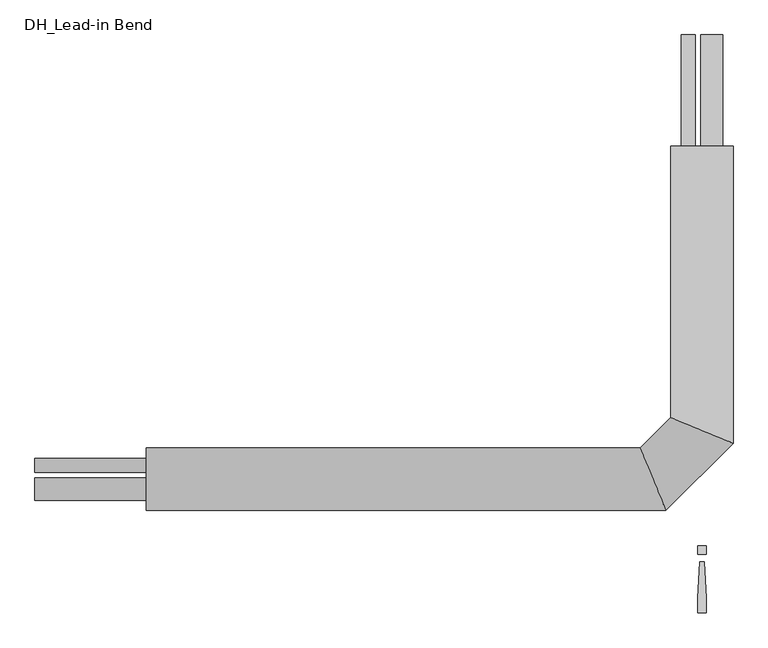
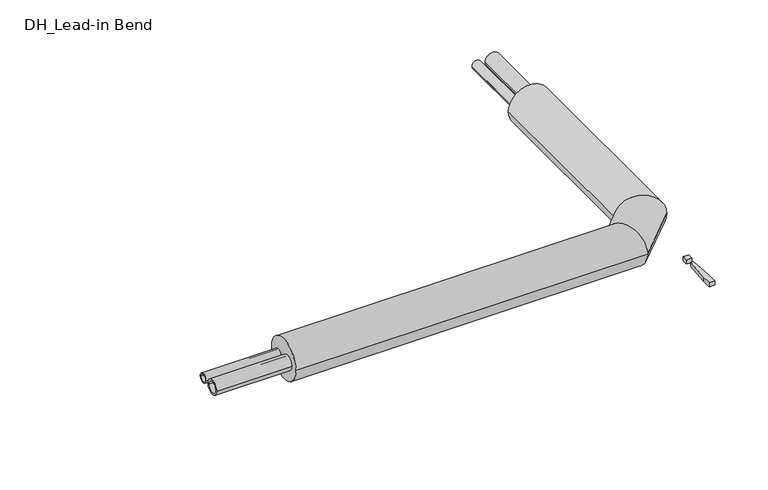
"""IFC4 building model written with IfcOpenShell, lengths in millimetres: pipe fitting geometry, DH_Lead-in Bend : INSULPEX DUO 7.4 DW Vertical."""

import ifcopenshell
import ifcopenshell.guid

model = None  # the IFC model being written
_history = None  # IfcOwnerHistory: only IFC2X3 demands one
_inside = {}  # id of a spatial element -> (the spatial element, [elements in it])
_under = {}  # id of a project, library or spatial element -> (it, [spatial elements below it])
_declared = {}  # id of a project -> (the project, [libraries it declares])
_typed = {}  # id of a type object -> (the type object, [elements of that type])
_made_of = {}  # id of a material, layer set ... -> (it, [elements and type objects made of it])


def new_model(schema):
    """Start an empty IFC model of exactly this schema.

    Asked for "IFC4X3", IfcOpenShell would pick the latest addendum, in which some entities
    have other attributes; the version numbers below select the first issue.
    IFC2X3 requires an IfcOwnerHistory on every rooted entity: one is made here for all.
    """
    global model, _history
    if schema == "IFC4X3":
        model = ifcopenshell.file(schema_version=(4, 3, 0, 0))
    else:
        model = ifcopenshell.file(schema=schema)
    _inside.clear()
    _under.clear()
    _declared.clear()
    _typed.clear()
    _made_of.clear()
    _history = None
    if model.schema == "IFC2X3":
        org = make("IfcOrganization", Name="unknown")
        user = make(
            "IfcPersonAndOrganization",
            ThePerson=make("IfcPerson", FamilyName="unknown"),
            TheOrganization=org,
        )
        app = make(
            "IfcApplication",
            ApplicationDeveloper=org,
            Version="unknown",
            ApplicationFullName="unknown",
            ApplicationIdentifier="unknown",
        )
        _history = make(
            "IfcOwnerHistory",
            OwningUser=user,
            OwningApplication=app,
            ChangeAction="ADDED",
            CreationDate=0,
        )
    return model


def make(cls, **values):
    """One entity of the class cls with the attributes given. An attribute that is None is left unset."""
    return model.create_entity(
        cls, **{name: value for name, value in values.items() if value is not None}
    )


def rooted(cls, **values):
    """An entity with a GlobalId (a new one), such as an element, a storey or a relation."""
    return make(cls, GlobalId=ifcopenshell.guid.new(), OwnerHistory=_history, **values)


def si_unit(unit_type, name, prefix=None):
    """IfcSIUnit, for example si_unit("LENGTHUNIT", "METRE", prefix="MILLI")."""
    return make("IfcSIUnit", UnitType=unit_type, Prefix=prefix, Name=name)


def assignment(units):
    """IfcUnitAssignment: the units of a project."""
    return None if units is None else make("IfcUnitAssignment", Units=units)


def point(xyz):
    """IfcCartesianPoint."""
    return None if xyz is None else make("IfcCartesianPoint", Coordinates=xyz)


def direction(xyz):
    """IfcDirection."""
    return None if xyz is None else make("IfcDirection", DirectionRatios=xyz)


def frame(location, z_axis=None, x_axis=None):
    """IfcAxis2Placement3D, a coordinate frame: its origin and axes. An axis left out is left unset."""
    return make(
        "IfcAxis2Placement3D",
        Location=point(location),
        Axis=direction(z_axis),
        RefDirection=direction(x_axis),
    )


def frame_2d(location, x_axis=None):
    """IfcAxis2Placement2D, a coordinate frame in the plane: its origin and x axis."""
    return make(
        "IfcAxis2Placement2D", Location=point(location), RefDirection=direction(x_axis)
    )


def origin():
    """The frame at (0, 0, 0) with its axes left unset."""
    return frame((0.0, 0.0, 0.0))


def origin_with_axes():
    """The frame at (0, 0, 0) with the z axis (0, 0, 1) and the x axis (1, 0, 0) written out."""
    return frame((0.0, 0.0, 0.0), z_axis=(0.0, 0.0, 1.0), x_axis=(1.0, 0.0, 0.0))


def place(relative_to, where):
    """IfcLocalPlacement: puts the frame where relative to a parent placement (None: the world)."""
    return make(
        "IfcLocalPlacement", PlacementRelTo=relative_to, RelativePlacement=where
    )


def context(
    kind, dimensions, precision=None, world=None, true_north=None, identifier=None
):
    """IfcGeometricRepresentationContext, for example the 3D "Model" context."""
    return make(
        "IfcGeometricRepresentationContext",
        ContextIdentifier=identifier,
        ContextType=kind,
        CoordinateSpaceDimension=dimensions,
        Precision=precision,
        WorldCoordinateSystem=world,
        TrueNorth=true_north,
    )


def project(units=None, contexts=None):
    """IfcProject with its units and contexts."""
    return rooted(
        "IfcProject",
        Name="project",
        RepresentationContexts=contexts,
        UnitsInContext=assignment(units),
    )


def spatial(cls, under=None, at=None, **own):
    """A site, building, storey or space (cls), placed at a placement, below another one or the project."""
    s = rooted(cls, ObjectPlacement=at, **own)
    if under is not None:
        _under.setdefault(under.id(), (under, []))[1].append(s)
    return s


def polyline(points):
    """IfcPolyline through the points."""
    return make("IfcPolyline", Points=[point(p) for p in points])


def circle_curve(where, radius):
    """IfcCircle in the frame where."""
    return make("IfcCircle", Position=where, Radius=radius)


def ellipse_curve(where, semi_axis1, semi_axis2):
    """IfcEllipse in the frame where."""
    return make(
        "IfcEllipse", Position=where, SemiAxis1=semi_axis1, SemiAxis2=semi_axis2
    )


def trimmed(basis, trim1, trim2, sense, master):
    """IfcTrimmedCurve: the piece of a basis curve between two trims."""
    return make(
        "IfcTrimmedCurve",
        BasisCurve=basis,
        Trim1=trim1,
        Trim2=trim2,
        SenseAgreement=sense,
        MasterRepresentation=master,
    )


def segment(curve, same_sense, transition):
    """IfcCompositeCurveSegment."""
    return make(
        "IfcCompositeCurveSegment",
        Transition=transition,
        SameSense=same_sense,
        ParentCurve=curve,
    )


def composite_curve(segments, self_intersect=None):
    """IfcCompositeCurve: segments joined end to end."""
    return make("IfcCompositeCurve", Segments=segments, SelfIntersect=self_intersect)


def outline(outer, holes=None, kind="AREA"):
    """IfcArbitraryClosedProfileDef: a profile drawn as a closed curve; with holes, ...WithVoids."""
    if holes is None:
        return make("IfcArbitraryClosedProfileDef", ProfileType=kind, OuterCurve=outer)
    return make(
        "IfcArbitraryProfileDefWithVoids",
        ProfileType=kind,
        OuterCurve=outer,
        InnerCurves=holes,
    )


def extrude(swept, where, along, depth):
    """IfcExtrudedAreaSolid: the profile swept, set in the frame where, extruded along a direction by depth."""
    return make(
        "IfcExtrudedAreaSolid",
        SweptArea=swept,
        Position=where,
        ExtrudedDirection=direction(along),
        Depth=depth,
    )


def shape(context_of_items, identifier, shape_type, items):
    """IfcShapeRepresentation: the items that make up one representation, for example the "Body"."""
    return make(
        "IfcShapeRepresentation",
        ContextOfItems=context_of_items,
        RepresentationIdentifier=identifier,
        RepresentationType=shape_type,
        Items=items,
    )


def source(mapping_origin, context_of_items, identifier, shape_type, items):
    """IfcRepresentationMap: a shape defined once, which mapped items show again and again."""
    return make(
        "IfcRepresentationMap",
        MappingOrigin=mapping_origin,
        MappedRepresentation=shape(context_of_items, identifier, shape_type, items),
    )


def transform(
    local_origin,
    x_axis=None,
    y_axis=None,
    z_axis=None,
    scale=None,
    scale2=None,
    scale3=None,
    uniform=True,
):
    """IfcCartesianTransformationOperator3D, or its non-uniform kind. x_axis, y_axis, z_axis: its Axis1, 2, 3."""
    if uniform:
        return make(
            "IfcCartesianTransformationOperator3D",
            Axis1=direction(x_axis),
            Axis2=direction(y_axis),
            LocalOrigin=point(local_origin),
            Scale=scale,
            Axis3=direction(z_axis),
        )
    return make(
        "IfcCartesianTransformationOperator3DnonUniform",
        Axis1=direction(x_axis),
        Axis2=direction(y_axis),
        LocalOrigin=point(local_origin),
        Scale=scale,
        Axis3=direction(z_axis),
        Scale2=scale2,
        Scale3=scale3,
    )


def mapped(mapping_source, mapping_target):
    """IfcMappedItem: shows the shape of a source again, moved by a transform."""
    return make(
        "IfcMappedItem", MappingSource=mapping_source, MappingTarget=mapping_target
    )


def made_of(thing, what):
    """Note that an element or type object is made of a material, layer set ...; save() writes the relation."""
    if what is not None:
        _made_of.setdefault(what.id(), (what, []))[1].append(thing)
    return thing


def element(
    cls,
    number,
    at=None,
    inside=None,
    cuts=None,
    type_object=None,
    material=None,
    context=None,
    identifier="Body",
    shape_type=None,
    held_by="IfcProductDefinitionShape",
    body=None,
    shapes=None,
    **own,
):
    """One element of the class cls, such as IfcWall. Its Tag is "e" and its number.

    at: its placement. inside: the storey or other place that contains it. cuts: it is an
    opening in that element (IfcRelVoidsElement). A single representation is given by context,
    identifier, shape_type and body (its items); several are given by shapes. held_by: the class
    of the entity that holds the representations. save() writes the other relations.
    """
    e = rooted(cls, Tag="e%d" % number, ObjectPlacement=at, **own)
    if body is not None:
        shapes = [shape(context, identifier, shape_type, body)]
    if shapes is not None:
        e.Representation = make(held_by, Representations=shapes)
    if inside is not None:
        _inside.setdefault(inside.id(), (inside, []))[1].append(e)
    if cuts is not None:
        rooted(
            "IfcRelVoidsElement", RelatingBuildingElement=cuts, RelatedOpeningElement=e
        )
    if type_object is not None:
        _typed.setdefault(type_object.id(), (type_object, []))[1].append(e)
    return made_of(e, material)


def aggregate(whole, parts):
    """IfcRelAggregates: a whole, such as a stair, and the parts it consists of."""
    return rooted("IfcRelAggregates", RelatingObject=whole, RelatedObjects=parts)


def save(model, path):
    """Write the relations noted so far, then the file.

    IfcRelAggregates (storeys below a building ...), IfcRelContainedInSpatialStructure (elements
    in a storey), IfcRelDefinesByType, IfcRelAssociatesMaterial and IfcRelDeclares: one each for
    every whole, place, type object, material and project.
    """
    for whole, parts in _under.values():
        aggregate(whole, parts)
    for where, things in _inside.values():
        rooted(
            "IfcRelContainedInSpatialStructure",
            RelatedElements=things,
            RelatingStructure=where,
        )
    for kind, things in _typed.values():
        rooted("IfcRelDefinesByType", RelatedObjects=things, RelatingType=kind)
    for what, things in _made_of.values():
        rooted("IfcRelAssociatesMaterial", RelatedObjects=things, RelatingMaterial=what)
    for by, libraries in _declared.values():
        rooted("IfcRelDeclares", RelatingContext=by, RelatedDefinitions=libraries)
    model.write(path)


def plane_surface(at):
    """IfcPlane: the flat surface through the origin of the frame at, square to its z axis."""
    return make("IfcPlane", Position=at)


def cylinder_surface(at, radius):
    """IfcCylindricalSurface: all points at the distance radius from the z axis of the frame at."""
    return make("IfcCylindricalSurface", Position=at, Radius=radius)


def advanced_brep(points, edges, surfaces, faces):
    """IfcAdvancedBrep: a solid bounded by faces that lie on surfaces and meet in shared edges.

    An edge is (start, end): straight between two places in points (the first is 0);
    or (start, end, curve); or (start, end, curve, False) where it runs against its curve.
    A face is (place in surfaces, loops), or (place, loops, False) where it looks against
    its surface's normal. A loop lists edges by number (the first is 1), with a minus sign
    where the edge is run from its end to its start. The first loop is the outer one.
    """
    corners = [point(p) for p in points]
    vertices = [make("IfcVertexPoint", VertexGeometry=c) for c in corners]
    made = []
    for start, end, *more in edges:
        made.append(
            make(
                "IfcEdgeCurve",
                EdgeStart=vertices[start],
                EdgeEnd=vertices[end],
                EdgeGeometry=more[0] if more else make("IfcPolyline", Points=[corners[start], corners[end]]),
                SameSense=more[1] if len(more) > 1 else True,
            )
        )
    hull = []
    for where, loops, *sense in faces:
        bounds = []
        for j, loop in enumerate(loops):
            ring = [make("IfcOrientedEdge", EdgeElement=made[abs(k) - 1], Orientation=k > 0) for k in loop]
            bounds.append(
                make(
                    "IfcFaceOuterBound" if j == 0 else "IfcFaceBound",
                    Bound=make("IfcEdgeLoop", EdgeList=ring),
                    Orientation=True,
                )
            )
        hull.append(make("IfcAdvancedFace", Bounds=bounds, FaceSurface=surfaces[where], SameSense=sense[0] if sense else True))
    return make("IfcAdvancedBrep", Outer=make("IfcClosedShell", CfsFaces=hull))


def dh_lead_in_bend_f61e59fa(model_context):
    return source(origin(), model_context, "Body", "SolidModel", [
        extrude(outline(composite_curve([segment(trimmed(circle_curve(frame_2d((-22.0, 0.0)), 25.0), [point((3.0, 0.0))], [point((-47.0, 0.0))], False, "CARTESIAN"), True, "CONTINUOUS"), segment(trimmed(circle_curve(frame_2d((-22.0, 0.0)), 25.0), [point((-47.0, 0.0))], [point((3.0, 0.0))], False, "CARTESIAN"), True, "CONTINUOUS")], self_intersect=False), holes=[composite_curve([segment(trimmed(circle_curve(frame_2d((-22.0, 0.0)), 18.1), [point((-3.9, 0.0))], [point((-40.1, 0.0))], True, "CARTESIAN"), True, "CONTINUOUS"), segment(trimmed(circle_curve(frame_2d((-22.0, 0.0)), 18.1), [point((-40.1, 0.0))], [point((-3.9, 0.0))], True, "CARTESIAN"), True, "CONTINUOUS")], self_intersect=False)]), frame((-1500.0, 0.0, 0.0), z_axis=(1.0, 0.0, 0.0), x_axis=(0.0, 1.0, 0.0)), (0.0, 0.0, 1.0), 250.0),
        advanced_brep(
        [(-1250.0, -70.0, 0.0), (-1250.0, 70.0, 0.0), (-81.0050506, -70.0, 0.0), (-138.9949494, 70.0, 0.0), (70.0, 750.0, 0.0), (-70.0, 750.0, 0.0), (-70.0, 138.9949494, 0.0), (70.0, 81.0050506, 0.0)],
        [
            (0, 1, circle_curve(frame((-1250.0, 0.0, 0.0), z_axis=(-1.0, 0.0, 0.0), x_axis=(0.0, 1.0, 0.0)), 70.0)),
            (1, 0, circle_curve(frame((-1250.0, 0.0, 0.0), z_axis=(-1.0, 0.0, 0.0), x_axis=(0.0, 1.0, 0.0)), 70.0)),
            (0, 2),
            (2, 3, ellipse_curve(frame((-110.0, 0.0, 0.0), z_axis=(-0.9238795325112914, -0.3826834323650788, 0.0), x_axis=(-0.38268343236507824, 0.9238795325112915, 0.0)), 75.767454, 70.0)),
            (3, 1),
            (3, 2, ellipse_curve(frame((-110.0, 0.0, 0.0), z_axis=(-0.9238795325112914, -0.3826834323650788, 0.0), x_axis=(-0.38268343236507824, 0.9238795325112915, 0.0)), 75.767454, 70.0)),
            (4, 5, circle_curve(frame((0.0, 750.0, 0.0), z_axis=(0.0, 1.0, 0.0), x_axis=(-1.0, 0.0, 0.0)), 70.0)),
            (5, 4, circle_curve(frame((0.0, 750.0, 0.0), z_axis=(0.0, 1.0, 0.0), x_axis=(-1.0, 0.0, 0.0)), 70.0)),
            (6, 7, ellipse_curve(frame((0.0, 110.0, 0.0), z_axis=(0.38268343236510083, 0.9238795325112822, 0.0), x_axis=(0.9238795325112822, -0.3826834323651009, 0.0)), 75.767454, 70.0)),
            (7, 4),
            (5, 6),
            (7, 6, ellipse_curve(frame((0.0, 110.0, 0.0), z_axis=(0.38268343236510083, 0.9238795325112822, 0.0), x_axis=(0.9238795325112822, -0.3826834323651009, 0.0)), 75.767454, 70.0)),
            (2, 7),
            (6, 3),
        ],
        [
            plane_surface(frame((-1250.0, 0.0, 0.0), z_axis=(-1.0, 0.0, 0.0), x_axis=(0.0, 0.0, 1.0))),
            cylinder_surface(frame((-1250.0, 0.0, 0.0), z_axis=(-1.0, 0.0, 0.0), x_axis=(0.0, 1.0, 0.0)), 70.0),
            plane_surface(frame((0.0, 750.0, 0.0), z_axis=(0.0, 1.0, 0.0), x_axis=(0.0, 0.0, 1.0))),
            cylinder_surface(frame((0.0, 110.0, 0.0), z_axis=(0.0, -1.0, 0.0), x_axis=(-1.0, 0.0, 0.0)), 70.0),
            cylinder_surface(frame((-110.0, 0.0, 0.0), z_axis=(-0.7071067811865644, -0.7071067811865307, 0.0), x_axis=(-0.7071067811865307, 0.7071067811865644, 0.0)), 70.0),
        ],
        [
            (0, [[1, 2]]),
            (1, [[-1, 3, 4, 5]]),
            (1, [[-2, -5, 6, -3]]),
            (2, [[7, 8]]),
            (3, [[9, 10, -8, 11]]),
            (3, [[12, -11, -7, -10]]),
            (4, [[-4, 13, -9, 14]]),
            (4, [[-6, -14, -12, -13]]),
        ],
    ),
        extrude(outline(composite_curve([segment(trimmed(circle_curve(frame_2d((0.0, -31.0)), 16.0), [point((0.0, -15.0))], [point((0.0, -47.0))], False, "CARTESIAN"), True, "CONTINUOUS"), segment(trimmed(circle_curve(frame_2d((0.0, -31.0)), 16.0), [point((0.0, -47.0))], [point((0.0, -15.0))], False, "CARTESIAN"), True, "CONTINUOUS")], self_intersect=False), holes=[composite_curve([segment(trimmed(circle_curve(frame_2d((0.0, -31.0)), 11.6), [point((0.0, -19.4))], [point((0.0, -42.6))], True, "CARTESIAN"), True, "CONTINUOUS"), segment(trimmed(circle_curve(frame_2d((0.0, -31.0)), 11.6), [point((0.0, -42.6))], [point((0.0, -19.4))], True, "CARTESIAN"), True, "CONTINUOUS")], self_intersect=False)]), frame((0.0, 750.0, 0.0), z_axis=(0.0, 1.0, 0.0), x_axis=(0.0, 0.0, 1.0)), (0.0, 0.0, 1.0), 250.0),
        extrude(outline(composite_curve([segment(trimmed(circle_curve(frame_2d((31.0, 0.0)), 16.0), [point((15.0, 0.0))], [point((47.0, 0.0))], False, "CARTESIAN"), True, "CONTINUOUS"), segment(trimmed(circle_curve(frame_2d((31.0, 0.0)), 16.0), [point((47.0, 0.0))], [point((15.0, 0.0))], False, "CARTESIAN"), True, "CONTINUOUS")], self_intersect=False), holes=[composite_curve([segment(trimmed(circle_curve(frame_2d((31.0, 0.0)), 11.6), [point((19.4, 0.0))], [point((42.6, 0.0))], True, "CARTESIAN"), True, "CONTINUOUS"), segment(trimmed(circle_curve(frame_2d((31.0, 0.0)), 11.6), [point((42.6, 0.0))], [point((19.4, 0.0))], True, "CARTESIAN"), True, "CONTINUOUS")], self_intersect=False)]), frame((-1500.0, 0.0, 0.0), z_axis=(1.0, 0.0, 0.0), x_axis=(0.0, 1.0, 0.0)), (0.0, 0.0, 1.0), 250.0),
        extrude(outline(composite_curve([segment(trimmed(circle_curve(frame_2d((0.0, 22.0)), 25.0), [point((0.0, -3.0))], [point((0.0, 47.0))], False, "CARTESIAN"), True, "CONTINUOUS"), segment(trimmed(circle_curve(frame_2d((0.0, 22.0)), 25.0), [point((0.0, 47.0))], [point((0.0, -3.0))], False, "CARTESIAN"), True, "CONTINUOUS")], self_intersect=False), holes=[composite_curve([segment(trimmed(circle_curve(frame_2d((0.0, 22.0)), 18.1), [point((0.0, 3.9))], [point((0.0, 40.1))], True, "CARTESIAN"), True, "CONTINUOUS"), segment(trimmed(circle_curve(frame_2d((0.0, 22.0)), 18.1), [point((0.0, 40.1))], [point((0.0, 3.9))], True, "CARTESIAN"), True, "CONTINUOUS")], self_intersect=False)]), frame((0.0, 750.0, 0.0), z_axis=(0.0, 1.0, 0.0), x_axis=(0.0, 0.0, 1.0)), (0.0, 0.0, 1.0), 250.0),
        extrude(outline(polyline([(4.7088895, -185.3166715), (9.4177791, -266.6553807), (9.4177791, -300.6844652), (-9.4177791, -300.6844652), (-9.4177791, -266.6553807), (-4.7088895, -185.3166715), (4.7088895, -185.3166715)])), origin_with_axes(), (0.0, 0.0, 1.0), 15.0),
        extrude(outline(polyline([(9.4177791, -150.0), (9.4177791, -168.8355582), (-9.4177791, -168.8355582), (-9.4177791, -150.0), (9.4177791, -150.0)])), origin_with_axes(), (0.0, 0.0, 1.0), 15.0),
    ])


if __name__ == "__main__":
    model = new_model("IFC4")
    model_context = context("Model", 3, world=origin())
    ifc_project = project(units=[si_unit("LENGTHUNIT", "METRE", prefix="MILLI")], contexts=[model_context])
    site = spatial("IfcSite", under=ifc_project)
    building = spatial("IfcBuilding", under=site)
    placement = place(None, origin())
    dh_lead_in_bend_shape = dh_lead_in_bend_f61e59fa(model_context)
    element("IfcPipeFitting", 1, ObjectType="DH_Lead-in Bend : INSULPEX DUO 7.4 DW Vertical", at=placement, inside=building, context=model_context, shape_type="MappedRepresentation", body=[
        mapped(dh_lead_in_bend_shape, transform((0.0, 0.0, 0.0), x_axis=(1.0, 0.0, 0.0), y_axis=(0.0, 1.0, 0.0), z_axis=(0.0, 0.0, 1.0))),
    ])
    save(model, "model.ifc")
